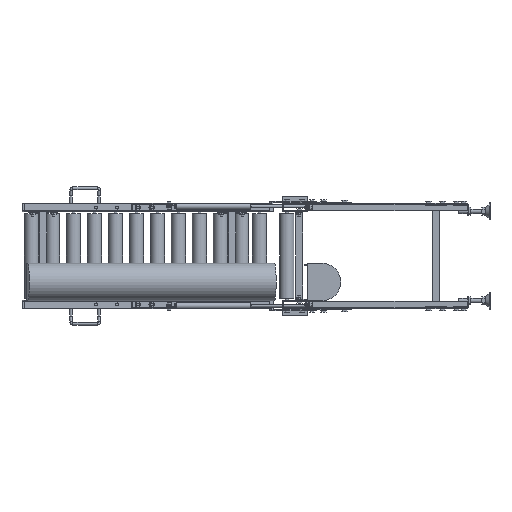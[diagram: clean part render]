
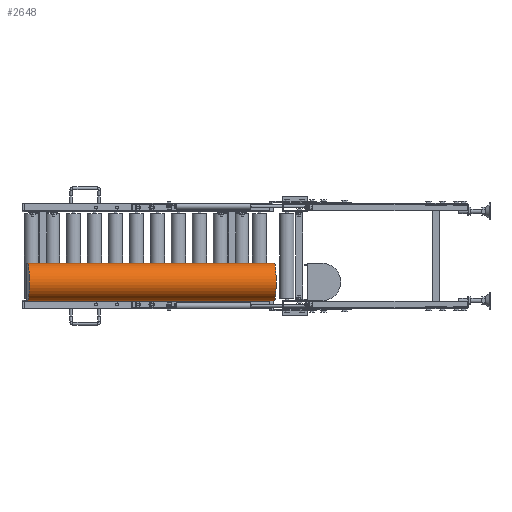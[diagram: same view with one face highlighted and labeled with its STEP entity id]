
A CAD part, left-side view. The second image highlights one B-rep face of the part: STEP entity #2648.
In plain terms, the highlighted cylindrical face has radius 66.89 mm (diameter 133.78 mm), a partial arc.
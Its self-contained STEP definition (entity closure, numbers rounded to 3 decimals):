
#2648=ADVANCED_FACE('',(#20359),#20358,.T.);
#20358=CYLINDRICAL_SURFACE('',#39003,66.89);
#20359=FACE_OUTER_BOUND('',#39004,.T.);
#39000=CARTESIAN_POINT('',(-63.444,-158.438,-92.61));
#39001=DIRECTION('',(0.087,-0.996,0.));
#39002=DIRECTION('',(0.,0.,-1.));
#39003=AXIS2_PLACEMENT_3D('',#39000,#39001,#39002);
#39004=EDGE_LOOP('',(#52960,#52961,#52962,#52963));
#52960=ORIENTED_EDGE('',*,*,#62080,.F.);
#52961=ORIENTED_EDGE('',*,*,#62102,.T.);
#52962=ORIENTED_EDGE('',*,*,#62100,.T.);
#52963=ORIENTED_EDGE('',*,*,#62076,.F.);
#62076=EDGE_CURVE('',#92791,#92798,#92799,.T.);
#62080=EDGE_CURVE('',#92818,#92791,#92825,.T.);
#62100=EDGE_CURVE('',#92963,#92798,#92964,.T.);
#62102=EDGE_CURVE('',#92818,#92963,#92976,.T.);
#92791=VERTEX_POINT('',#125749);
#92798=VERTEX_POINT('',#125753);
#92799=CIRCLE('',#125757,66.89);
#92818=VERTEX_POINT('',#125765);
#92825=LINE('',#125769,#125770);
#92963=VERTEX_POINT('',#125847);
#92964=LINE('',#125848,#125849);
#92976=CIRCLE('',#125857,66.89);
#125749=CARTESIAN_POINT('',(-155.735,897.187,-159.5));
#125753=CARTESIAN_POINT('',(-155.735,897.187,-25.72));
#125754=CARTESIAN_POINT('',(-155.735,897.187,-92.61));
#125755=DIRECTION('',(-0.087,0.996,0.));
#125756=DIRECTION('',(0.,0.,1.));
#125757=AXIS2_PLACEMENT_3D('',#125754,#125755,#125756);
#125765=CARTESIAN_POINT('',(-78.917,18.539,-159.5));
#125769=CARTESIAN_POINT('',(-78.917,18.539,-159.5));
#125770=VECTOR('',#125771,882.);
#125771=DIRECTION('',(-0.087,0.996,0.));
#125847=CARTESIAN_POINT('',(-78.917,18.539,-25.72));
#125848=CARTESIAN_POINT('',(-78.917,18.539,-25.72));
#125849=VECTOR('',#125850,882.);
#125850=DIRECTION('',(-0.087,0.996,0.));
#125854=CARTESIAN_POINT('',(-78.917,18.539,-92.61));
#125855=DIRECTION('',(-0.087,0.996,0.));
#125856=DIRECTION('',(0.,0.,1.));
#125857=AXIS2_PLACEMENT_3D('',#125854,#125855,#125856);
